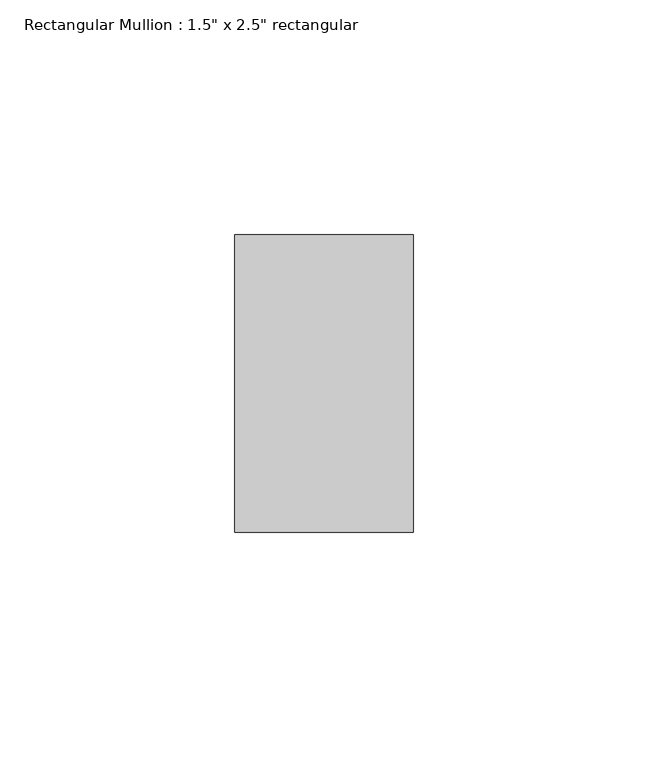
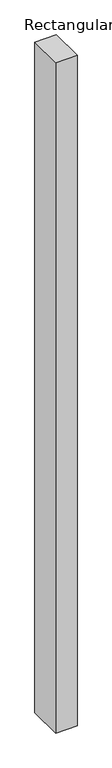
"""IFC4 building model written with IfcOpenShell, lengths in millimetres: member geometry."""

import ifcopenshell
import ifcopenshell.guid

model = None  # the IFC model being written
_history = None  # IfcOwnerHistory: only IFC2X3 demands one
_inside = {}  # id of a spatial element -> (the spatial element, [elements in it])
_under = {}  # id of a project, library or spatial element -> (it, [spatial elements below it])
_declared = {}  # id of a project -> (the project, [libraries it declares])
_typed = {}  # id of a type object -> (the type object, [elements of that type])
_made_of = {}  # id of a material, layer set ... -> (it, [elements and type objects made of it])


def new_model(schema):
    """Start an empty IFC model of exactly this schema.

    Asked for "IFC4X3", IfcOpenShell would pick the latest addendum, in which some entities
    have other attributes; the version numbers below select the first issue.
    IFC2X3 requires an IfcOwnerHistory on every rooted entity: one is made here for all.
    """
    global model, _history
    if schema == "IFC4X3":
        model = ifcopenshell.file(schema_version=(4, 3, 0, 0))
    else:
        model = ifcopenshell.file(schema=schema)
    _inside.clear()
    _under.clear()
    _declared.clear()
    _typed.clear()
    _made_of.clear()
    _history = None
    if model.schema == "IFC2X3":
        org = make("IfcOrganization", Name="unknown")
        user = make(
            "IfcPersonAndOrganization",
            ThePerson=make("IfcPerson", FamilyName="unknown"),
            TheOrganization=org,
        )
        app = make(
            "IfcApplication",
            ApplicationDeveloper=org,
            Version="unknown",
            ApplicationFullName="unknown",
            ApplicationIdentifier="unknown",
        )
        _history = make(
            "IfcOwnerHistory",
            OwningUser=user,
            OwningApplication=app,
            ChangeAction="ADDED",
            CreationDate=0,
        )
    return model


def make(cls, **values):
    """One entity of the class cls with the attributes given. An attribute that is None is left unset."""
    return model.create_entity(
        cls, **{name: value for name, value in values.items() if value is not None}
    )


def rooted(cls, **values):
    """An entity with a GlobalId (a new one), such as an element, a storey or a relation."""
    return make(cls, GlobalId=ifcopenshell.guid.new(), OwnerHistory=_history, **values)


def si_unit(unit_type, name, prefix=None):
    """IfcSIUnit, for example si_unit("LENGTHUNIT", "METRE", prefix="MILLI")."""
    return make("IfcSIUnit", UnitType=unit_type, Prefix=prefix, Name=name)


def assignment(units):
    """IfcUnitAssignment: the units of a project."""
    return None if units is None else make("IfcUnitAssignment", Units=units)


def point(xyz):
    """IfcCartesianPoint."""
    return None if xyz is None else make("IfcCartesianPoint", Coordinates=xyz)


def direction(xyz):
    """IfcDirection."""
    return None if xyz is None else make("IfcDirection", DirectionRatios=xyz)


def frame(location, z_axis=None, x_axis=None):
    """IfcAxis2Placement3D, a coordinate frame: its origin and axes. An axis left out is left unset."""
    return make(
        "IfcAxis2Placement3D",
        Location=point(location),
        Axis=direction(z_axis),
        RefDirection=direction(x_axis),
    )


def origin():
    """The frame at (0, 0, 0) with its axes left unset."""
    return frame((0.0, 0.0, 0.0))


def place(relative_to, where):
    """IfcLocalPlacement: puts the frame where relative to a parent placement (None: the world)."""
    return make(
        "IfcLocalPlacement", PlacementRelTo=relative_to, RelativePlacement=where
    )


def context(
    kind, dimensions, precision=None, world=None, true_north=None, identifier=None
):
    """IfcGeometricRepresentationContext, for example the 3D "Model" context."""
    return make(
        "IfcGeometricRepresentationContext",
        ContextIdentifier=identifier,
        ContextType=kind,
        CoordinateSpaceDimension=dimensions,
        Precision=precision,
        WorldCoordinateSystem=world,
        TrueNorth=true_north,
    )


def project(units=None, contexts=None):
    """IfcProject with its units and contexts."""
    return rooted(
        "IfcProject",
        Name="project",
        RepresentationContexts=contexts,
        UnitsInContext=assignment(units),
    )


def spatial(cls, under=None, at=None, **own):
    """A site, building, storey or space (cls), placed at a placement, below another one or the project."""
    s = rooted(cls, ObjectPlacement=at, **own)
    if under is not None:
        _under.setdefault(under.id(), (under, []))[1].append(s)
    return s


def polyline(points):
    """IfcPolyline through the points."""
    return make("IfcPolyline", Points=[point(p) for p in points])


def outline(outer, holes=None, kind="AREA"):
    """IfcArbitraryClosedProfileDef: a profile drawn as a closed curve; with holes, ...WithVoids."""
    if holes is None:
        return make("IfcArbitraryClosedProfileDef", ProfileType=kind, OuterCurve=outer)
    return make(
        "IfcArbitraryProfileDefWithVoids",
        ProfileType=kind,
        OuterCurve=outer,
        InnerCurves=holes,
    )


def extrude(swept, where, along, depth):
    """IfcExtrudedAreaSolid: the profile swept, set in the frame where, extruded along a direction by depth."""
    return make(
        "IfcExtrudedAreaSolid",
        SweptArea=swept,
        Position=where,
        ExtrudedDirection=direction(along),
        Depth=depth,
    )


def shape(context_of_items, identifier, shape_type, items):
    """IfcShapeRepresentation: the items that make up one representation, for example the "Body"."""
    return make(
        "IfcShapeRepresentation",
        ContextOfItems=context_of_items,
        RepresentationIdentifier=identifier,
        RepresentationType=shape_type,
        Items=items,
    )


def source(mapping_origin, context_of_items, identifier, shape_type, items):
    """IfcRepresentationMap: a shape defined once, which mapped items show again and again."""
    return make(
        "IfcRepresentationMap",
        MappingOrigin=mapping_origin,
        MappedRepresentation=shape(context_of_items, identifier, shape_type, items),
    )


def transform(
    local_origin,
    x_axis=None,
    y_axis=None,
    z_axis=None,
    scale=None,
    scale2=None,
    scale3=None,
    uniform=True,
):
    """IfcCartesianTransformationOperator3D, or its non-uniform kind. x_axis, y_axis, z_axis: its Axis1, 2, 3."""
    if uniform:
        return make(
            "IfcCartesianTransformationOperator3D",
            Axis1=direction(x_axis),
            Axis2=direction(y_axis),
            LocalOrigin=point(local_origin),
            Scale=scale,
            Axis3=direction(z_axis),
        )
    return make(
        "IfcCartesianTransformationOperator3DnonUniform",
        Axis1=direction(x_axis),
        Axis2=direction(y_axis),
        LocalOrigin=point(local_origin),
        Scale=scale,
        Axis3=direction(z_axis),
        Scale2=scale2,
        Scale3=scale3,
    )


def mapped(mapping_source, mapping_target):
    """IfcMappedItem: shows the shape of a source again, moved by a transform."""
    return make(
        "IfcMappedItem", MappingSource=mapping_source, MappingTarget=mapping_target
    )


def made_of(thing, what):
    """Note that an element or type object is made of a material, layer set ...; save() writes the relation."""
    if what is not None:
        _made_of.setdefault(what.id(), (what, []))[1].append(thing)
    return thing


def element(
    cls,
    number,
    at=None,
    inside=None,
    cuts=None,
    type_object=None,
    material=None,
    context=None,
    identifier="Body",
    shape_type=None,
    held_by="IfcProductDefinitionShape",
    body=None,
    shapes=None,
    **own,
):
    """One element of the class cls, such as IfcWall. Its Tag is "e" and its number.

    at: its placement. inside: the storey or other place that contains it. cuts: it is an
    opening in that element (IfcRelVoidsElement). A single representation is given by context,
    identifier, shape_type and body (its items); several are given by shapes. held_by: the class
    of the entity that holds the representations. save() writes the other relations.
    """
    e = rooted(cls, Tag="e%d" % number, ObjectPlacement=at, **own)
    if body is not None:
        shapes = [shape(context, identifier, shape_type, body)]
    if shapes is not None:
        e.Representation = make(held_by, Representations=shapes)
    if inside is not None:
        _inside.setdefault(inside.id(), (inside, []))[1].append(e)
    if cuts is not None:
        rooted(
            "IfcRelVoidsElement", RelatingBuildingElement=cuts, RelatedOpeningElement=e
        )
    if type_object is not None:
        _typed.setdefault(type_object.id(), (type_object, []))[1].append(e)
    return made_of(e, material)


def aggregate(whole, parts):
    """IfcRelAggregates: a whole, such as a stair, and the parts it consists of."""
    return rooted("IfcRelAggregates", RelatingObject=whole, RelatedObjects=parts)


def save(model, path):
    """Write the relations noted so far, then the file.

    IfcRelAggregates (storeys below a building ...), IfcRelContainedInSpatialStructure (elements
    in a storey), IfcRelDefinesByType, IfcRelAssociatesMaterial and IfcRelDeclares: one each for
    every whole, place, type object, material and project.
    """
    for whole, parts in _under.values():
        aggregate(whole, parts)
    for where, things in _inside.values():
        rooted(
            "IfcRelContainedInSpatialStructure",
            RelatedElements=things,
            RelatingStructure=where,
        )
    for kind, things in _typed.values():
        rooted("IfcRelDefinesByType", RelatedObjects=things, RelatingType=kind)
    for what, things in _made_of.values():
        rooted("IfcRelAssociatesMaterial", RelatedObjects=things, RelatingMaterial=what)
    for by, libraries in _declared.values():
        rooted("IfcRelDeclares", RelatingContext=by, RelatedDefinitions=libraries)
    model.write(path)


def member_4dc6d254(model_context):
    return source(origin(), model_context, "Body", "SweptSolid", [
        extrude(outline(polyline([(19.05, 31.75), (19.05, -31.75), (-19.05, -31.75), (-19.05, 31.75), (19.05, 31.75)])), frame((0.0, 0.0, -1256.7390859), z_axis=(0.0, 0.0, 1.0), x_axis=(1.0, 0.0, 0.0)), (0.0, 0.0, 1.0), 1256.7390859),
    ])


if __name__ == "__main__":
    model = new_model("IFC4")
    model_context = context("Model", 3, world=origin())
    ifc_project = project(units=[si_unit("LENGTHUNIT", "METRE", prefix="MILLI")], contexts=[model_context])
    site = spatial("IfcSite", under=ifc_project)
    building = spatial("IfcBuilding", under=site)
    placement = place(None, origin())
    member_shape = member_4dc6d254(model_context)
    element("IfcMember", 1, ObjectType="Rectangular Mullion : 1.5\" x 2.5\" rectangular", at=placement, inside=building, context=model_context, shape_type="MappedRepresentation", body=[
        mapped(member_shape, transform((0.0, 0.0, 0.0), x_axis=(1.0, 0.0, 0.0), y_axis=(0.0, 1.0, 0.0), z_axis=(0.0, 0.0, 1.0))),
    ])
    save(model, "model.ifc")
